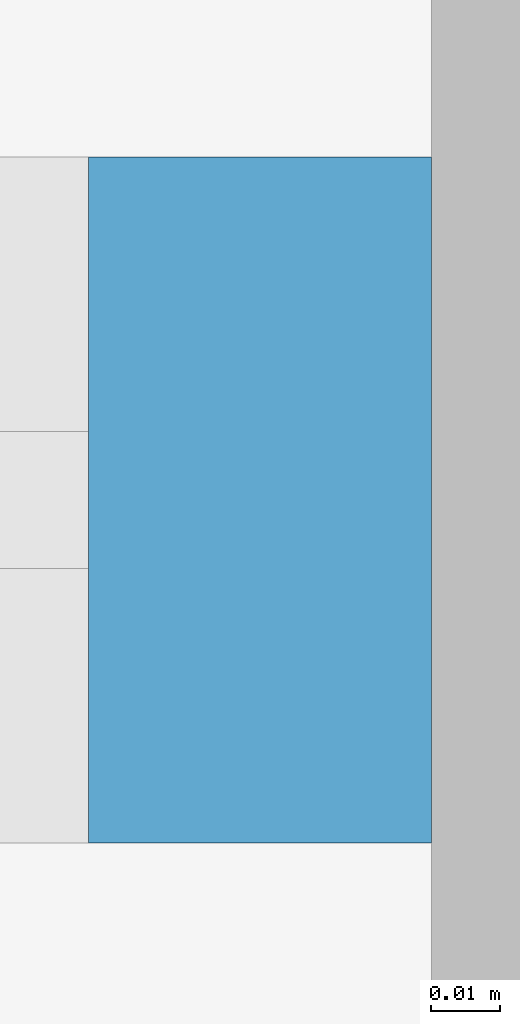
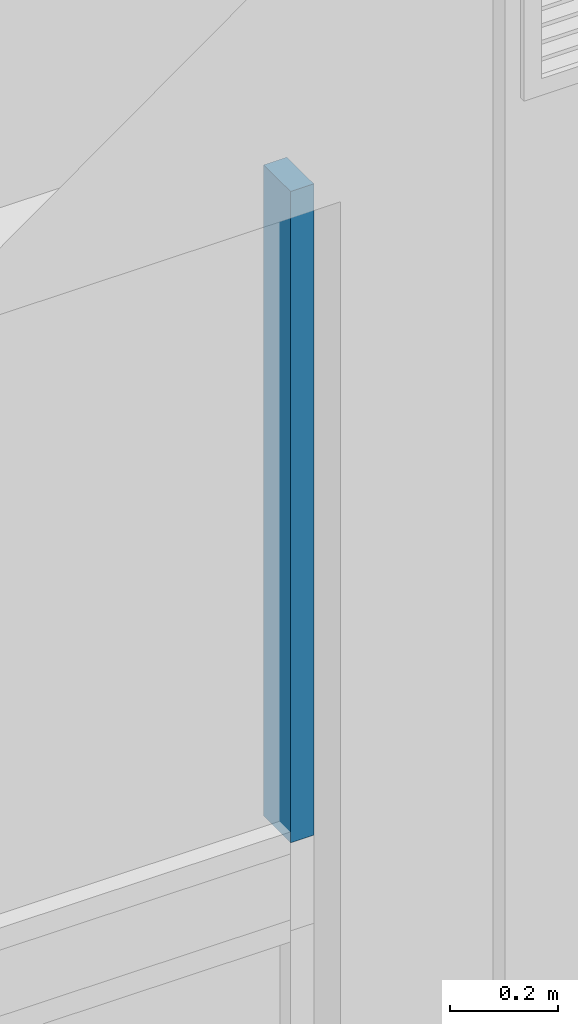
# One storey, part 15 of 117: 1 member, 1 element without a shape of its own.
"""IFC4 building model written with IfcOpenShell, lengths in metres."""

from ifc_helpers import new_model, entity, si_unit, converted_unit, derived_unit, direction, frame, origin, place, context, subcontext, project, spatial, indexed_curve, outline, extrude, source, transform, mapped, material, type_object, type_shapes, element, aggregate, save


model = new_model("IFC4")

# Units and contexts
model_context = context("Model", 3, precision=1e-05, world=origin(), true_north=direction((6.123031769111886e-17, 1.0)))
body_context = subcontext(model_context, "Body", "Model", "MODEL_VIEW")
ifc_project = project(units=[si_unit("LENGTHUNIT", "METRE"), si_unit("AREAUNIT", "SQUARE_METRE"), si_unit("VOLUMEUNIT", "CUBIC_METRE"), converted_unit("PLANEANGLEUNIT", "DEGREE", entity("IfcRatioMeasure", 0.017453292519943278), si_unit("PLANEANGLEUNIT", "RADIAN"), dimensions=[0, 0, 0, 0, 0, 0, 0]), si_unit("MASSUNIT", "GRAM", prefix="KILO"), derived_unit("MASSDENSITYUNIT", [(si_unit("MASSUNIT", "GRAM", prefix="KILO"), 1), (si_unit("LENGTHUNIT", "METRE"), -3)]), derived_unit("MOMENTOFINERTIAUNIT", [(si_unit("LENGTHUNIT", "METRE"), 4)]), si_unit("TIMEUNIT", "SECOND"), si_unit("FREQUENCYUNIT", "HERTZ"), si_unit("THERMODYNAMICTEMPERATUREUNIT", "DEGREE_CELSIUS"), derived_unit("THERMALTRANSMITTANCEUNIT", [(si_unit("MASSUNIT", "GRAM", prefix="KILO"), 1), (si_unit("THERMODYNAMICTEMPERATUREUNIT", "KELVIN"), -1), (si_unit("TIMEUNIT", "SECOND"), -3)]), derived_unit("VOLUMETRICFLOWRATEUNIT", [(si_unit("LENGTHUNIT", "METRE"), 3), (si_unit("TIMEUNIT", "SECOND"), -1)]), derived_unit("MASSFLOWRATEUNIT", [(si_unit("MASSUNIT", "GRAM", prefix="KILO"), 1), (si_unit("TIMEUNIT", "SECOND"), -1)]), derived_unit("ROTATIONALFREQUENCYUNIT", [(si_unit("TIMEUNIT", "SECOND"), -1)]), si_unit("ELECTRICCURRENTUNIT", "AMPERE"), si_unit("ELECTRICVOLTAGEUNIT", "VOLT"), si_unit("POWERUNIT", "WATT"), si_unit("FORCEUNIT", "NEWTON", prefix="KILO"), si_unit("ILLUMINANCEUNIT", "LUX"), si_unit("LUMINOUSFLUXUNIT", "LUMEN"), si_unit("LUMINOUSINTENSITYUNIT", "CANDELA"), derived_unit("USERDEFINED", [(si_unit("MASSUNIT", "GRAM", prefix="KILO"), -1), (si_unit("LENGTHUNIT", "METRE"), -2), (si_unit("TIMEUNIT", "SECOND"), 3), (si_unit("LUMINOUSFLUXUNIT", "LUMEN"), 1)]), derived_unit("SOUNDPOWERUNIT", [(si_unit("MASSUNIT", "GRAM", prefix="KILO"), 1), (si_unit("LENGTHUNIT", "METRE"), 2), (si_unit("TIMEUNIT", "SECOND"), -3)]), derived_unit("SOUNDPRESSUREUNIT", [(si_unit("MASSUNIT", "GRAM", prefix="KILO"), 1), (si_unit("LENGTHUNIT", "METRE"), -1), (si_unit("TIMEUNIT", "SECOND"), -2)]), derived_unit("LINEARVELOCITYUNIT", [(si_unit("LENGTHUNIT", "METRE"), 1), (si_unit("TIMEUNIT", "SECOND"), -1)]), si_unit("PRESSUREUNIT", "PASCAL"), derived_unit("USERDEFINED", [(si_unit("LENGTHUNIT", "METRE"), -2), (si_unit("MASSUNIT", "GRAM", prefix="KILO"), 1), (si_unit("TIMEUNIT", "SECOND"), -2)]), derived_unit("LINEARFORCEUNIT", [(si_unit("MASSUNIT", "GRAM", prefix="KILO"), 1), (si_unit("LENGTHUNIT", "METRE"), 1), (si_unit("TIMEUNIT", "SECOND"), -2), (si_unit("LENGTHUNIT", "METRE"), -1)]), derived_unit("PLANARFORCEUNIT", [(si_unit("MASSUNIT", "GRAM", prefix="KILO"), 1), (si_unit("LENGTHUNIT", "METRE"), 1), (si_unit("TIMEUNIT", "SECOND"), -2), (si_unit("LENGTHUNIT", "METRE"), -2)])], contexts=[model_context])

# Site, building, storey
site_placement = place(None, origin())
site = spatial("IfcSite", under=ifc_project, at=site_placement, Name="Superficie", CompositionType="ELEMENT")
building_placement = place(site_placement, origin())
building = spatial("IfcBuilding", under=site, at=building_placement, CompositionType="ELEMENT")
storey_placement = place(building_placement, origin())
storey = spatial("IfcBuildingStorey", under=building, at=storey_placement, Name="Nivel 0", CompositionType="ELEMENT", Elevation=0.0)

# Curtain wall, member
curtain_wall_type = type_object("IfcCurtainWallType", Name="Muro cortina:Muro cortina - simple", PredefinedType="NOTDEFINED")
curtain_wall_placement = place(storey_placement, origin())
curtain_wall = element("IfcCurtainWall", 1, at=curtain_wall_placement, inside=storey, type_object=curtain_wall_type, Name="Muro cortina:Muro cortina - simple", ObjectType="Muro cortina:Muro cortina - simple", PredefinedType="NOTDEFINED")
ifc_material = material(Name="<Unnamed>")
member_type = type_object("IfcMemberType", Name="Montante rectangular:Montante rectangular - 5 x 10 cm", PredefinedType="MULLION", material=ifc_material)
shared_shape = source(origin(), body_context, "Body", "SweptSolid", [
    extrude(outline(indexed_curve([(-0.05, -0.025), (0.05, -0.025), (0.05, 0.025), (-0.05, 0.025), (-0.05, -0.025)], self_intersect=False)), frame((-0.025, 0.0, -1.4790268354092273), z_axis=(0.0, 0.0, 1.0), x_axis=(0.0, -1.0, 0.0)), (0.0, 0.0, 1.0), 1.4790268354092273),
])
type_shapes(member_type, [shared_shape])
member_placement = place(curtain_wall_placement, frame((20.58679901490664, 12.734548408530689, 0.7809731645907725), z_axis=(0.0, 0.0, -1.0), x_axis=(1.0, 0.0, 0.0)))
member = element("IfcMember", 2, at=member_placement, type_object=member_type, material=ifc_material, Name="Montante rectangular:Montante rectangular - 5 x 10 cm", ObjectType="Montante rectangular:Montante rectangular - 5 x 10 cm", PredefinedType="MULLION", context=body_context, shape_type="MappedRepresentation", body=[
    mapped(shared_shape, transform((0.0, 0.0, 0.0), scale=1.0)),
])
aggregate(curtain_wall, [member])

save(model, "model.ifc")
